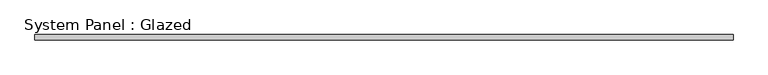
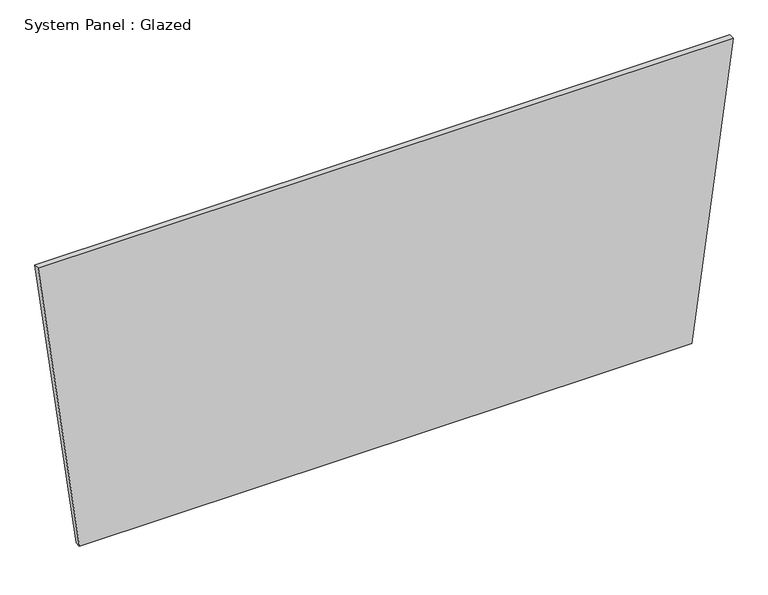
"""IFC4 building model written with IfcOpenShell, lengths in millimetres: plate geometry, System Panel : Glazed."""

from ifc_helpers import new_model, si_unit, frame, origin, place, context, project, spatial, polyline, outline, extrude, source, transform, mapped, element, save


def system_panel_glazed_607d1a2e(model_context):
    return source(origin(), model_context, "Body", "SweptSolid", [
        extrude(outline(polyline([(0.0, -1435.2179705), (0.0, 1435.2179705), (1447.0644321, 1628.6484065), (1447.0644321, -1628.6484065), (0.0, -1435.2179705)])), frame((0.0, 19.05, 0.0), z_axis=(0.0, 1.0, 0.0), x_axis=(0.0, 0.0, 1.0)), (0.0, 0.0, 1.0), 25.4),
    ])


if __name__ == "__main__":
    model = new_model("IFC4")
    model_context = context("Model", 3, world=origin())
    ifc_project = project(units=[si_unit("LENGTHUNIT", "METRE", prefix="MILLI")], contexts=[model_context])
    site = spatial("IfcSite", under=ifc_project)
    building = spatial("IfcBuilding", under=site)
    placement = place(None, origin())
    system_panel_glazed_shape = system_panel_glazed_607d1a2e(model_context)
    element("IfcPlate", 1, ObjectType="System Panel : Glazed", at=placement, inside=building, context=model_context, shape_type="MappedRepresentation", body=[
        mapped(system_panel_glazed_shape, transform((0.0, 0.0, 0.0), x_axis=(1.0, 0.0, 0.0), y_axis=(0.0, 1.0, 0.0), z_axis=(0.0, 0.0, 1.0))),
    ])
    save(model, "model.ifc")
